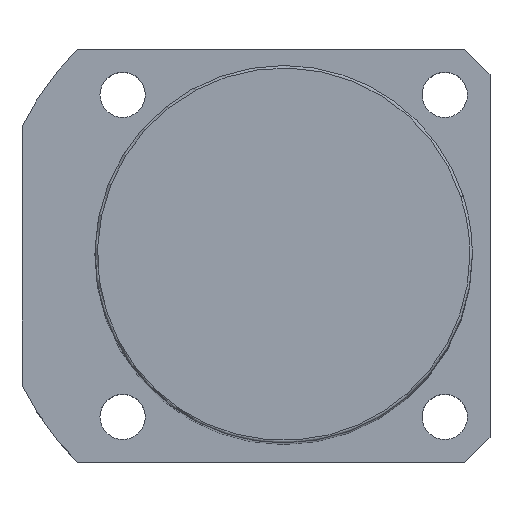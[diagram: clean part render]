
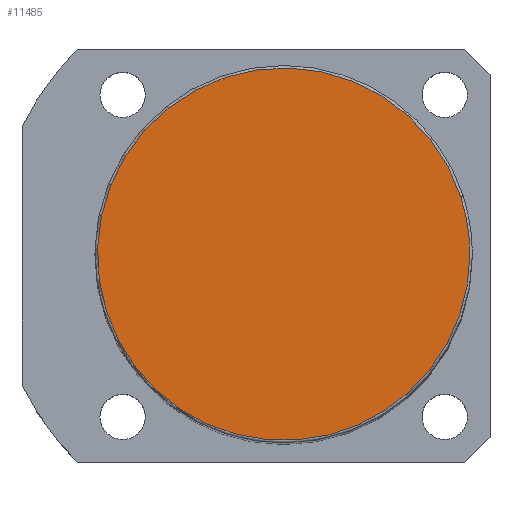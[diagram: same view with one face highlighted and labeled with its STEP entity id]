
A CAD part, top view. The second image highlights one B-rep face of the part: STEP entity #11485.
In plain terms, the highlighted planar face has unit normal (0, 0, 1).
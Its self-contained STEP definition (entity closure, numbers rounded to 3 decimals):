
#11418=CARTESIAN_POINT('',(35.189,11.434,203.0));
#11419=VERTEX_POINT('',#11418);
#11437=CARTESIAN_POINT('',(-35.189,-11.434,203.0));
#11438=VERTEX_POINT('',#11437);
#11446=CARTESIAN_POINT('',(0.0,0.0,203.0));
#11447=DIRECTION('',(0.0,0.0,1.0));
#11448=DIRECTION('',(1.0,0.0,0.0));
#11449=AXIS2_PLACEMENT_3D('',#11446,#11447,#11448);
#11450=CIRCLE('',#11449,37.0);
#11451=EDGE_CURVE('no 5210',#11419,#11438,#11450,.T.);
#11461=CARTESIAN_POINT('',(37.0,0.0,203.0));
#11462=VERTEX_POINT('',#11461);
#11463=CARTESIAN_POINT('',(0.0,0.0,203.0));
#11464=DIRECTION('',(0.0,0.0,1.0));
#11465=DIRECTION('',(1.0,0.0,0.0));
#11466=AXIS2_PLACEMENT_3D('',#11463,#11464,#11465);
#11467=CIRCLE('',#11466,37.0);
#11468=EDGE_CURVE('no 5219',#11462,#11419,#11467,.T.);
#11469=ORIENTED_EDGE('',*,*,#11468,.T.);
#11470=ORIENTED_EDGE('',*,*,#11451,.T.);
#11471=CARTESIAN_POINT('',(0.0,0.0,203.0));
#11472=DIRECTION('',(0.0,0.0,1.0));
#11473=DIRECTION('',(1.0,0.0,0.0));
#11474=AXIS2_PLACEMENT_3D('',#11471,#11472,#11473);
#11475=CIRCLE('',#11474,37.0);
#11476=EDGE_CURVE('no 5225',#11438,#11462,#11475,.T.);
#11477=ORIENTED_EDGE('',*,*,#11476,.T.);
#11478=EDGE_LOOP('',(#11469,#11470,#11477));
#11479=FACE_OUTER_BOUND('',#11478,.T.);
#11480=CARTESIAN_POINT('',(0.0,0.0,203.0));
#11481=DIRECTION('',(0.0,0.0,1.0));
#11482=DIRECTION('',(1.0,0.0,0.0));
#11483=AXIS2_PLACEMENT_3D('',#11480,#11481,#11482);
#11484=PLANE('',#11483);
#11485=ADVANCED_FACE('no 5212',(#11479),#11484,.T.);
